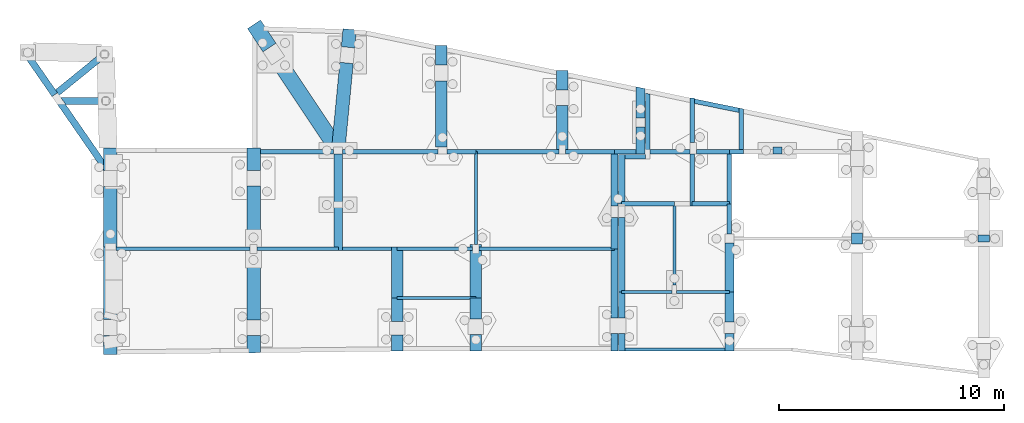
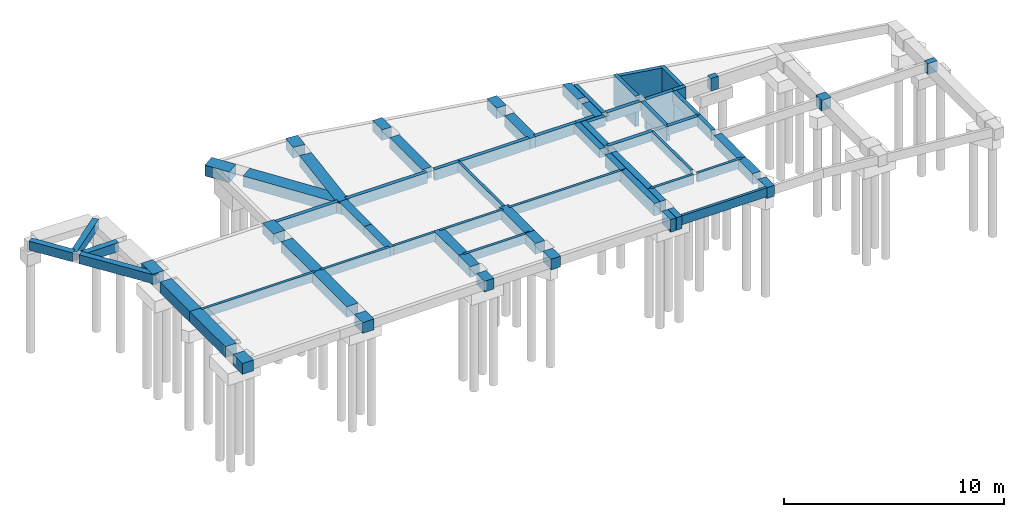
# One storey, part 2 of 5: 71 beams, 3 columns.
"""IFC4 building model written with IfcOpenShell, lengths in centimetres."""

from ifc_helpers import new_model, si_unit, derived_unit, frame, origin, origin_with_axes, origin_2d_with_axis, place, context, project, spatial, rectangle, extrude, clip, halfspace, material, element, save


model = new_model("IFC4")

# Units and contexts
model_context = context("Model", 3, precision=1e-05, world=origin_with_axes(), identifier="Body")
ifc_project = project(units=[si_unit("LENGTHUNIT", "METRE", prefix="CENTI"), si_unit("VOLUMEUNIT", "CUBIC_METRE"), si_unit("AREAUNIT", "SQUARE_METRE"), si_unit("POWERUNIT", "WATT"), si_unit("LUMINOUSFLUXUNIT", "LUMEN"), si_unit("ELECTRICCURRENTUNIT", "AMPERE"), si_unit("PRESSUREUNIT", "PASCAL", prefix="KILO"), si_unit("MASSUNIT", "GRAM", prefix="KILO"), si_unit("PLANEANGLEUNIT", "RADIAN"), derived_unit("VOLUMETRICFLOWRATEUNIT", [(si_unit("LENGTHUNIT", "METRE"), 3), (si_unit("TIMEUNIT", "SECOND"), -1)])], contexts=[model_context])

# Site, building, storey
site_placement = place(None, origin_with_axes())
site = spatial("IfcSite", under=ifc_project, at=site_placement)
building_placement = place(site_placement, origin())
building = spatial("IfcBuilding", under=site, at=building_placement)
storey_placement = place(building_placement, origin_with_axes())
storey = spatial("IfcBuildingStorey", under=building, at=storey_placement, Name="PÁTIO", CompositionType="ELEMENT", Elevation=0.0)

# Columns
ifc_material = material(Name="Concreto")
column_1_placement = place(storey_placement, frame((3361.6, -450.9, 0.0), z_axis=(0.0, 0.0, 1.0), x_axis=(1.0, 0.0, 0.0)))
element("IfcColumn", 1, at=column_1_placement, inside=storey, material=ifc_material, Name="P15", context=model_context, shape_type="SolidModel", body=[
    extrude(rectangle(XDim=30.0, YDim=40.0, at=origin_2d_with_axis()), frame((0.0, 0.0, -70.0), z_axis=(0.0, 0.0, 1.0), x_axis=(0.0, -1.0, 0.0)), (0.0, 0.0, 1.0), 70.0),
])
column_2_placement = place(storey_placement, frame((3716.6, -843.1, 0.0), z_axis=(0.0, 0.0, 1.0), x_axis=(1.0, 0.0, 0.0)))
element("IfcColumn", 2, at=column_2_placement, inside=storey, material=ifc_material, Name="P25", context=model_context, shape_type="SolidModel", body=[
    extrude(rectangle(XDim=50.0, YDim=50.0, at=origin_2d_with_axis()), frame((0.0, 0.0, -60.0), z_axis=(0.0, 0.0, 1.0), x_axis=(0.0, -1.0, 0.0)), (0.0, 0.0, 1.0), 60.0),
])
column_3_placement = place(storey_placement, frame((4280.6, -843.1, 0.0), z_axis=(0.0, 0.0, 1.0), x_axis=(1.0, 0.0, 0.0)))
element("IfcColumn", 3, at=column_3_placement, inside=storey, material=ifc_material, Name="P26", context=model_context, shape_type="SolidModel", body=[
    extrude(rectangle(XDim=30.0, YDim=50.0, at=origin_2d_with_axis()), frame((0.0, 0.0, -60.0), z_axis=(0.0, 0.0, 1.0), x_axis=(0.0, -1.0, 0.0)), (0.0, 0.0, 1.0), 60.0),
])

# Beams
beam_1_placement = place(storey_placement, frame((264.50829820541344, -229.98, 0.0), z_axis=(0.0, 0.0, 1.0), x_axis=(1.0, 0.0, 0.0)))
element("IfcBeam", 4, at=beam_1_placement, inside=storey, material=ifc_material, Name="V.MURO1", context=model_context, shape_type="Clipping", body=[
    clip(extrude(rectangle(XDim=30.0, YDim=50.0, at=origin_2d_with_axis()), frame((-92.7217017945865, 0.0, -25.0), z_axis=(1.0, 0.0, 0.0), x_axis=(0.0, -1.0, 0.0)), (0.0, 0.0, 1.0), 185.44340358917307), halfspace(frame((-92.7217017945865, 15.0, 0.0), z_axis=(0.822031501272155, 0.5694420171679, 0.0), x_axis=(0.0, 0.0, -0.5694420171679)), True)),
])
beam_2_placement = place(storey_placement, frame((253.30542142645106, -114.25227937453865, 0.0), z_axis=(0.0, 0.0, 1.0), x_axis=(1.0, 0.0, 0.0)))
element("IfcBeam", 5, at=beam_2_placement, inside=storey, material=ifc_material, Name="V.MURO2", context=model_context, shape_type="SolidModel", body=[
    extrude(rectangle(XDim=30.0, YDim=50.0, at=origin_2d_with_axis()), frame((-108.51542142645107, -88.09772062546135, -25.0), z_axis=(0.776362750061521, 0.63028634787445, 0.0), x_axis=(0.63028634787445, -0.776362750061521, 0.0)), (0.0, 0.0, 1.0), 279.5482431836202),
])
beam_3_placement = place(storey_placement, frame((274.3735820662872, -389.4108619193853, 0.0), z_axis=(0.0, 0.0, 1.0), x_axis=(1.0, 0.0, 0.0)))
element("IfcBeam", 6, at=beam_3_placement, inside=storey, material=ifc_material, Name="V.MURO3", context=model_context, shape_type="SolidModel", body=[
    extrude(rectangle(XDim=30.0, YDim=50.0, at=origin_2d_with_axis()), frame((110.44358206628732, -159.43086191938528, -25.0), z_axis=(-0.569448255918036, 0.822027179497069, 0.0), x_axis=(0.822027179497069, 0.569448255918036, 0.0)), (0.0, 0.0, 1.0), 387.89681386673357),
])
beam_4_placement = place(storey_placement, frame((82.1365584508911, -111.90422857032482, 0.0), z_axis=(0.0, 0.0, 1.0), x_axis=(1.0, 0.0, 0.0)))
element("IfcBeam", 7, at=beam_4_placement, inside=storey, material=ifc_material, Name="V.MURO3", context=model_context, shape_type="SolidModel", body=[
    extrude(rectangle(XDim=30.0, YDim=50.0, at=origin_2d_with_axis()), frame((62.65346172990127, -90.44580056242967, -25.0), z_axis=(-0.56943813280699, 0.822034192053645, 0.0), x_axis=(0.822034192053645, 0.56943813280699, 0.0)), (0.0, 0.0, 1.0), 220.05362170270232),
])
beam_5_placement = place(storey_placement, frame((2528.05, -455.9, 0.0), z_axis=(0.0, 0.0, 1.0), x_axis=(1.0, 0.0, 0.0)))
element("IfcBeam", 8, at=beam_5_placement, inside=storey, material=ifc_material, Name="V1", context=model_context, shape_type="SolidModel", body=[
    extrude(rectangle(XDim=20.0, YDim=60.0, at=origin_2d_with_axis()), frame((-108.55, 0.0, -30.0), z_axis=(1.0, 0.0, 0.0), x_axis=(0.0, 1.0, 0.0)), (0.0, 0.0, 1.0), 217.1),
])
beam_6_placement = place(storey_placement, frame((1222.85, -455.9, 0.0), z_axis=(0.0, 0.0, 1.0), x_axis=(1.0, 0.0, 0.0)))
element("IfcBeam", 9, at=beam_6_placement, inside=storey, material=ifc_material, Name="V1", context=model_context, shape_type="SolidModel", body=[
    extrude(rectangle(XDim=20.0, YDim=60.0, at=origin_2d_with_axis()), frame((-163.15, 0.0, -30.0), z_axis=(1.0, 0.0, 0.0), x_axis=(0.0, 1.0, 0.0)), (0.0, 0.0, 1.0), 326.3),
])
beam_7_placement = place(storey_placement, frame((2684.8, -455.9, 0.0), z_axis=(0.0, 0.0, 1.0), x_axis=(1.0, 0.0, 0.0)))
element("IfcBeam", 10, at=beam_7_placement, inside=storey, material=ifc_material, Name="V1", context=model_context, shape_type="SolidModel", body=[
    extrude(rectangle(XDim=20.0, YDim=60.0, at=origin_2d_with_axis()), frame((-48.2, 0.0, -30.0), z_axis=(1.0, 0.0, 0.0), x_axis=(0.0, 1.0, 0.0)), (0.0, 0.0, 1.0), 96.4),
])
beam_8_placement = place(storey_placement, frame((2204.55, -455.9, 0.0), z_axis=(0.0, 0.0, 1.0), x_axis=(1.0, 0.0, 0.0)))
element("IfcBeam", 11, at=beam_8_placement, inside=storey, material=ifc_material, Name="V1", context=model_context, shape_type="SolidModel", body=[
    extrude(rectangle(XDim=20.0, YDim=60.0, at=origin_2d_with_axis()), frame((-184.95, 0.0, -30.0), z_axis=(1.0, 0.0, 0.0), x_axis=(0.0, 1.0, 0.0)), (0.0, 0.0, 1.0), 369.9),
])
beam_9_placement = place(storey_placement, frame((1955.3, -455.9, 0.0), z_axis=(0.0, 0.0, 1.0), x_axis=(1.0, 0.0, 0.0)))
element("IfcBeam", 12, at=beam_9_placement, inside=storey, material=ifc_material, Name="V1", context=model_context, shape_type="SolidModel", body=[
    extrude(rectangle(XDim=20.0, YDim=60.0, at=origin_2d_with_axis()), frame((-64.3, 0.0, -30.0), z_axis=(1.0, 0.0, 0.0), x_axis=(0.0, 1.0, 0.0)), (0.0, 0.0, 1.0), 128.6),
])
beam_10_placement = place(storey_placement, frame((1638.5, -455.9, 0.0), z_axis=(0.0, 0.0, 1.0), x_axis=(1.0, 0.0, 0.0)))
element("IfcBeam", 13, at=beam_10_placement, inside=storey, material=ifc_material, Name="V1", context=model_context, shape_type="SolidModel", body=[
    extrude(rectangle(XDim=20.0, YDim=60.0, at=origin_2d_with_axis()), frame((-212.5, 0.0, -30.0), z_axis=(1.0, 0.0, 0.0), x_axis=(0.0, 1.0, 0.0)), (0.0, 0.0, 1.0), 425.0),
])
beam_11_placement = place(storey_placement, frame((2908.6, -1337.1, 0.0), z_axis=(0.0, 0.0, 1.0), x_axis=(1.0, 0.0, 0.0)))
element("IfcBeam", 14, at=beam_11_placement, inside=storey, material=ifc_material, Name="V10", context=model_context, shape_type="SolidModel", body=[
    extrude(rectangle(XDim=14.0, YDim=50.0, at=origin_2d_with_axis()), frame((-255.0, 0.0, -25.0), z_axis=(1.0, 0.0, 0.0), x_axis=(0.0, 1.0, 0.0)), (0.0, 0.0, 1.0), 510.0),
])
beam_12_placement = place(storey_placement, frame((392.75, -489.55, 0.0), z_axis=(0.0, 0.0, 1.0), x_axis=(1.0, 0.0, 0.0)))
element("IfcBeam", 15, at=beam_12_placement, inside=storey, material=ifc_material, Name="V11", context=model_context, shape_type="SolidModel", body=[
    extrude(rectangle(XDim=60.0, YDim=60.0, at=origin_2d_with_axis()), frame((0.0, -50.75, -30.0), z_axis=(0.0, 1.0, 0.0), x_axis=(1.0, 0.0, 0.0)), (0.0, 0.0, 1.0), 101.5),
])
beam_13_placement = place(storey_placement, frame((392.75, -1041.86, 0.0), z_axis=(0.0, 0.0, 1.0), x_axis=(1.0, 0.0, 0.0)))
element("IfcBeam", 16, at=beam_13_placement, inside=storey, material=ifc_material, Name="V11", context=model_context, shape_type="SolidModel", body=[
    extrude(rectangle(XDim=60.0, YDim=60.0, at=origin_2d_with_axis()), frame((0.0, -161.96, -30.0), z_axis=(0.0, 1.0, 0.0), x_axis=(1.0, 0.0, 0.0)), (0.0, 0.0, 1.0), 323.92),
])
beam_14_placement = place(storey_placement, frame((392.75, -1316.01, 0.0), z_axis=(0.0, 0.0, 1.0), x_axis=(1.0, 0.0, 0.0)))
element("IfcBeam", 17, at=beam_14_placement, inside=storey, material=ifc_material, Name="V11", context=model_context, shape_type="SolidModel", body=[
    extrude(rectangle(XDim=60.0, YDim=60.0, at=origin_2d_with_axis()), frame((0.0, -42.19, -30.0), z_axis=(0.0, 1.0, 0.0), x_axis=(1.0, 0.0, 0.0)), (0.0, 0.0, 1.0), 84.38),
])
beam_15_placement = place(storey_placement, frame((392.75, -745.1, 0.0), z_axis=(0.0, 0.0, 1.0), x_axis=(1.0, 0.0, 0.0)))
element("IfcBeam", 18, at=beam_15_placement, inside=storey, material=ifc_material, Name="V11", context=model_context, shape_type="SolidModel", body=[
    extrude(rectangle(XDim=60.0, YDim=60.0, at=origin_2d_with_axis()), frame((0.0, -134.8, -30.0), z_axis=(0.0, 1.0, 0.0), x_axis=(1.0, 0.0, 0.0)), (0.0, 0.0, 1.0), 269.6),
])
beam_16_placement = place(storey_placement, frame((1029.7, -1046.86, 0.0), z_axis=(0.0, 0.0, 1.0), x_axis=(1.0, 0.0, 0.0)))
element("IfcBeam", 19, at=beam_16_placement, inside=storey, material=ifc_material, Name="V12", context=model_context, shape_type="SolidModel", body=[
    extrude(rectangle(XDim=60.0, YDim=60.0, at=origin_2d_with_axis()), frame((0.0, -158.46, -30.0), z_axis=(0.0, 1.0, 0.0), x_axis=(1.0, 0.0, 0.0)), (0.0, 0.0, 1.0), 316.92),
])
beam_17_placement = place(storey_placement, frame((1029.7, -488.8, 0.0), z_axis=(0.0, 0.0, 1.0), x_axis=(1.0, 0.0, 0.0)))
element("IfcBeam", 20, at=beam_17_placement, inside=storey, material=ifc_material, Name="V12", context=model_context, shape_type="SolidModel", body=[
    extrude(rectangle(XDim=60.0, YDim=60.0, at=origin_2d_with_axis()), frame((0.0, -50.0, -30.0), z_axis=(0.0, 1.0, 0.0), x_axis=(1.0, 0.0, 0.0)), (0.0, 0.0, 1.0), 100.0),
])
beam_18_placement = place(storey_placement, frame((1029.7, -1313.521036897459, 0.0), z_axis=(0.0, 0.0, 1.0), x_axis=(1.0, 0.0, 0.0)))
element("IfcBeam", 21, at=beam_18_placement, inside=storey, material=ifc_material, Name="V12", context=model_context, shape_type="Clipping", body=[
    clip(extrude(rectangle(XDim=60.0, YDim=60.0, at=origin_2d_with_axis()), frame((0.0, -38.20103689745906, -30.0), z_axis=(0.0, 1.0, 0.0), x_axis=(1.0, 0.0, 0.0)), (0.0, 0.0, 1.0), 76.40207379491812), halfspace(frame((-30.0, -38.20103689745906, 0.0), z_axis=(-0.011144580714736, 1.0, 0.0), x_axis=(0.0, 0.0, -0.011144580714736)), True)),
])
beam_19_placement = place(storey_placement, frame((1029.7, -748.6, 0.0), z_axis=(0.0, 0.0, 1.0), x_axis=(1.0, 0.0, 0.0)))
element("IfcBeam", 22, at=beam_19_placement, inside=storey, material=ifc_material, Name="V12", context=model_context, shape_type="SolidModel", body=[
    extrude(rectangle(XDim=60.0, YDim=60.0, at=origin_2d_with_axis()), frame((0.0, -139.8, -30.0), z_axis=(0.0, 1.0, 0.0), x_axis=(1.0, 0.0, 0.0)), (0.0, 0.0, 1.0), 279.6),
])
beam_20_placement = place(storey_placement, frame((1406.96, -794.15, 0.0), z_axis=(0.0, 0.0, 1.0), x_axis=(1.0, 0.0, 0.0)))
element("IfcBeam", 23, at=beam_20_placement, inside=storey, material=ifc_material, Name="V13", context=model_context, shape_type="SolidModel", body=[
    extrude(rectangle(XDim=40.0, YDim=50.0, at=origin_2d_with_axis()), frame((0.0, -101.25, -25.0), z_axis=(0.0, 1.0, 0.0), x_axis=(1.0, 0.0, 0.0)), (0.0, 0.0, 1.0), 202.5),
])
beam_21_placement = place(storey_placement, frame((1406.96, -579.4, 0.0), z_axis=(0.0, 0.0, 1.0), x_axis=(1.0, 0.0, 0.0)))
element("IfcBeam", 24, at=beam_21_placement, inside=storey, material=ifc_material, Name="V13", context=model_context, shape_type="SolidModel", body=[
    extrude(rectangle(XDim=40.0, YDim=50.0, at=origin_2d_with_axis()), frame((0.0, -113.5, -25.0), z_axis=(0.0, 1.0, 0.0), x_axis=(1.0, 0.0, 0.0)), (0.0, 0.0, 1.0), 227.0),
])
beam_22_placement = place(storey_placement, frame((1669.6, -1308.145, 0.0), z_axis=(0.0, 0.0, 1.0), x_axis=(1.0, 0.0, 0.0)))
element("IfcBeam", 25, at=beam_22_placement, inside=storey, material=ifc_material, Name="V14", context=model_context, shape_type="SolidModel", body=[
    extrude(rectangle(XDim=50.0, YDim=60.0, at=origin_2d_with_axis()), frame((0.0, -35.955, -30.0), z_axis=(0.0, 1.0, 0.0), x_axis=(1.0, 0.0, 0.0)), (0.0, 0.0, 1.0), 71.91),
])
beam_23_placement = place(storey_placement, frame((1669.6, -1159.545, 0.0), z_axis=(0.0, 0.0, 1.0), x_axis=(1.0, 0.0, 0.0)))
element("IfcBeam", 26, at=beam_23_placement, inside=storey, material=ifc_material, Name="V14", context=model_context, shape_type="SolidModel", body=[
    extrude(rectangle(XDim=50.0, YDim=60.0, at=origin_2d_with_axis()), frame((0.0, -52.645, -30.0), z_axis=(0.0, 1.0, 0.0), x_axis=(1.0, 0.0, 0.0)), (0.0, 0.0, 1.0), 105.29),
])
beam_24_placement = place(storey_placement, frame((1669.6, -994.15, 0.0), z_axis=(0.0, 0.0, 1.0), x_axis=(1.0, 0.0, 0.0)))
element("IfcBeam", 27, at=beam_24_placement, inside=storey, material=ifc_material, Name="V14", context=model_context, shape_type="SolidModel", body=[
    extrude(rectangle(XDim=50.0, YDim=60.0, at=origin_2d_with_axis()), frame((0.0, -112.75, -30.0), z_axis=(0.0, 1.0, 0.0), x_axis=(1.0, 0.0, 0.0)), (0.0, 0.0, 1.0), 225.5),
])
beam_25_placement = place(storey_placement, frame((1866.0, -27.35925409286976, 0.0), z_axis=(0.0, 0.0, 1.0), x_axis=(1.0, 0.0, 0.0)))
element("IfcBeam", 28, at=beam_25_placement, inside=storey, material=ifc_material, Name="V15", context=model_context, shape_type="SolidModel", body=[
    extrude(rectangle(XDim=50.0, YDim=60.0, at=origin_2d_with_axis()), frame((0.0, -43.06074590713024, -30.0), z_axis=(0.0, 1.0, 0.0), x_axis=(1.0, 0.0, 0.0)), (0.0, 0.0, 1.0), 86.12149181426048),
])
beam_26_placement = place(storey_placement, frame((1866.0, -288.16, 0.0), z_axis=(0.0, 0.0, 1.0), x_axis=(1.0, 0.0, 0.0)))
element("IfcBeam", 29, at=beam_26_placement, inside=storey, material=ifc_material, Name="V15", context=model_context, shape_type="SolidModel", body=[
    extrude(rectangle(XDim=50.0, YDim=60.0, at=origin_2d_with_axis()), frame((0.0, -147.74, -30.0), z_axis=(0.0, 1.0, 0.0), x_axis=(1.0, 0.0, 0.0)), (0.0, 0.0, 1.0), 295.48),
])
beam_27_placement = place(storey_placement, frame((2019.6, -987.65, 0.0), z_axis=(0.0, 0.0, 1.0), x_axis=(1.0, 0.0, 0.0)))
element("IfcBeam", 30, at=beam_27_placement, inside=storey, material=ifc_material, Name="V16", context=model_context, shape_type="SolidModel", body=[
    extrude(rectangle(XDim=50.0, YDim=60.0, at=origin_2d_with_axis()), frame((0.0, -119.25, -30.0), z_axis=(0.0, 1.0, 0.0), x_axis=(1.0, 0.0, 0.0)), (0.0, 0.0, 1.0), 238.5),
])
beam_28_placement = place(storey_placement, frame((2019.6, -1153.79, 0.0), z_axis=(0.0, 0.0, 1.0), x_axis=(1.0, 0.0, 0.0)))
element("IfcBeam", 31, at=beam_28_placement, inside=storey, material=ifc_material, Name="V16", context=model_context, shape_type="SolidModel", body=[
    extrude(rectangle(XDim=50.0, YDim=60.0, at=origin_2d_with_axis()), frame((0.0, -46.89, -30.0), z_axis=(0.0, 1.0, 0.0), x_axis=(1.0, 0.0, 0.0)), (0.0, 0.0, 1.0), 93.78),
])
beam_29_placement = place(storey_placement, frame((2019.6, -1307.39, 0.0), z_axis=(0.0, 0.0, 1.0), x_axis=(1.0, 0.0, 0.0)))
element("IfcBeam", 32, at=beam_29_placement, inside=storey, material=ifc_material, Name="V16", context=model_context, shape_type="SolidModel", body=[
    extrude(rectangle(XDim=50.0, YDim=60.0, at=origin_2d_with_axis()), frame((0.0, -36.71, -30.0), z_axis=(0.0, 1.0, 0.0), x_axis=(1.0, 0.0, 0.0)), (0.0, 0.0, 1.0), 73.42),
])
beam_30_placement = place(storey_placement, frame((2019.6, -662.15, 0.0), z_axis=(0.0, 0.0, 1.0), x_axis=(1.0, 0.0, 0.0)))
element("IfcBeam", 33, at=beam_30_placement, inside=storey, material=ifc_material, Name="V17", context=model_context, shape_type="SolidModel", body=[
    extrude(rectangle(XDim=14.0, YDim=50.0, at=origin_2d_with_axis()), frame((0.0, -206.25, -25.0), z_axis=(0.0, 1.0, 0.0), x_axis=(1.0, 0.0, 0.0)), (0.0, 0.0, 1.0), 412.5),
])
beam_31_placement = place(storey_placement, frame((2404.5, -358.525, 0.0), z_axis=(0.0, 0.0, 1.0), x_axis=(1.0, 0.0, 0.0)))
element("IfcBeam", 34, at=beam_31_placement, inside=storey, material=ifc_material, Name="V18", context=model_context, shape_type="SolidModel", body=[
    extrude(rectangle(XDim=50.0, YDim=60.0, at=origin_2d_with_axis()), frame((0.0, -107.375, -30.0), z_axis=(0.0, 1.0, 0.0), x_axis=(1.0, 0.0, 0.0)), (0.0, 0.0, 1.0), 214.75),
])
beam_32_placement = place(storey_placement, frame((2404.5, -138.07003948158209, 0.0), z_axis=(0.0, 0.0, 1.0), x_axis=(1.0, 0.0, 0.0)))
element("IfcBeam", 35, at=beam_32_placement, inside=storey, material=ifc_material, Name="V18", context=model_context, shape_type="SolidModel", body=[
    extrude(rectangle(XDim=50.0, YDim=60.0, at=origin_2d_with_axis()), frame((0.0, -43.07996051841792, -30.0), z_axis=(0.0, 1.0, 0.0), x_axis=(1.0, 0.0, 0.0)), (0.0, 0.0, 1.0), 86.15992103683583),
])
beam_33_placement = place(storey_placement, frame((2636.6, -1042.28, 0.0), z_axis=(0.0, 0.0, 1.0), x_axis=(1.0, 0.0, 0.0)))
element("IfcBeam", 36, at=beam_33_placement, inside=storey, material=ifc_material, Name="V19", context=model_context, shape_type="SolidModel", body=[
    extrude(rectangle(XDim=30.0, YDim=70.0, at=origin_2d_with_axis()), frame((0.0, -153.88, -35.0), z_axis=(0.0, 1.0, 0.0), x_axis=(1.0, 0.0, 0.0)), (0.0, 0.0, 1.0), 307.76),
])
beam_34_placement = place(storey_placement, frame((2636.6, -577.0, 0.0), z_axis=(0.0, 0.0, 1.0), x_axis=(1.0, 0.0, 0.0)))
element("IfcBeam", 37, at=beam_34_placement, inside=storey, material=ifc_material, Name="V19", context=model_context, shape_type="SolidModel", body=[
    extrude(rectangle(XDim=30.0, YDim=50.0, at=origin_2d_with_axis()), frame((0.0, -121.1, -25.0), z_axis=(0.0, 1.0, 0.0), x_axis=(1.0, 0.0, 0.0)), (0.0, 0.0, 1.0), 242.2),
])
beam_35_placement = place(storey_placement, frame((2636.6, -1305.13, 0.0), z_axis=(0.0, 0.0, 1.0), x_axis=(1.0, 0.0, 0.0)))
element("IfcBeam", 38, at=beam_35_placement, inside=storey, material=ifc_material, Name="V19", context=model_context, shape_type="SolidModel", body=[
    extrude(rectangle(XDim=30.0, YDim=70.0, at=origin_2d_with_axis()), frame((0.0, -38.97, -35.0), z_axis=(0.0, 1.0, 0.0), x_axis=(1.0, 0.0, 0.0)), (0.0, 0.0, 1.0), 77.94),
])
beam_36_placement = place(storey_placement, frame((2636.6, -818.25, 0.0), z_axis=(0.0, 0.0, 1.0), x_axis=(1.0, 0.0, 0.0)))
element("IfcBeam", 39, at=beam_36_placement, inside=storey, material=ifc_material, Name="V19", context=model_context, shape_type="SolidModel", body=[
    extrude(rectangle(XDim=30.0, YDim=70.0, at=origin_2d_with_axis()), frame((0.0, -70.15, -35.0), z_axis=(0.0, 1.0, 0.0), x_axis=(1.0, 0.0, 0.0)), (0.0, 0.0, 1.0), 140.3),
])
beam_37_placement = place(storey_placement, frame((2729.3, -477.9, 0.0), z_axis=(0.0, 0.0, 1.0), x_axis=(1.0, 0.0, 0.0)))
element("IfcBeam", 40, at=beam_37_placement, inside=storey, material=ifc_material, Name="V2", context=model_context, shape_type="SolidModel", body=[
    extrude(rectangle(XDim=20.0, YDim=50.0, at=origin_2d_with_axis()), frame((-45.7, 0.0, -25.0), z_axis=(1.0, 0.0, 0.0), x_axis=(0.0, 1.0, 0.0)), (0.0, 0.0, 1.0), 91.4),
])
beam_38_placement = place(storey_placement, frame((2668.6, -578.0, 0.0), z_axis=(0.0, 0.0, 1.0), x_axis=(1.0, 0.0, 0.0)))
element("IfcBeam", 41, at=beam_38_placement, inside=storey, material=ifc_material, Name="V20", context=model_context, shape_type="SolidModel", body=[
    extrude(rectangle(XDim=30.0, YDim=50.0, at=origin_2d_with_axis()), frame((0.0, -110.1, -25.0), z_axis=(0.0, 1.0, 0.0), x_axis=(1.0, 0.0, 0.0)), (0.0, 0.0, 1.0), 220.2),
])
beam_39_placement = place(storey_placement, frame((2668.6, -1305.13, 0.0), z_axis=(0.0, 0.0, 1.0), x_axis=(1.0, 0.0, 0.0)))
element("IfcBeam", 42, at=beam_39_placement, inside=storey, material=ifc_material, Name="V20", context=model_context, shape_type="SolidModel", body=[
    extrude(rectangle(XDim=30.0, YDim=70.0, at=origin_2d_with_axis()), frame((0.0, -38.97, -35.0), z_axis=(0.0, 1.0, 0.0), x_axis=(1.0, 0.0, 0.0)), (0.0, 0.0, 1.0), 77.94),
])
beam_40_placement = place(storey_placement, frame((2668.6, -1138.13, 0.0), z_axis=(0.0, 0.0, 1.0), x_axis=(1.0, 0.0, 0.0)))
element("IfcBeam", 43, at=beam_40_placement, inside=storey, material=ifc_material, Name="V20", context=model_context, shape_type="SolidModel", body=[
    extrude(rectangle(XDim=30.0, YDim=70.0, at=origin_2d_with_axis()), frame((0.0, -58.03, -35.0), z_axis=(0.0, 1.0, 0.0), x_axis=(1.0, 0.0, 0.0)), (0.0, 0.0, 1.0), 116.06),
])
beam_41_placement = place(storey_placement, frame((2668.6, -914.1, 0.0), z_axis=(0.0, 0.0, 1.0), x_axis=(1.0, 0.0, 0.0)))
element("IfcBeam", 44, at=beam_41_placement, inside=storey, material=ifc_material, Name="V20", context=model_context, shape_type="SolidModel", body=[
    extrude(rectangle(XDim=30.0, YDim=70.0, at=origin_2d_with_axis()), frame((0.0, -166.0, -35.0), z_axis=(0.0, 1.0, 0.0), x_axis=(1.0, 0.0, 0.0)), (0.0, 0.0, 1.0), 332.0),
])
beam_42_placement = place(storey_placement, frame((2785.0, -325.802159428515, 0.0), z_axis=(0.0, 0.0, 1.0), x_axis=(1.0, 0.0, 0.0)))
element("IfcBeam", 45, at=beam_42_placement, inside=storey, material=ifc_material, Name="V21", context=model_context, shape_type="Clipping", body=[
    clip(extrude(rectangle(XDim=20.0, YDim=50.0, at=origin_2d_with_axis()), frame((0.0, -130.097840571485, -25.0), z_axis=(0.0, 1.0, 0.0), x_axis=(1.0, 0.0, 0.0)), (0.0, 0.0, 1.0), 260.1956811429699), halfspace(frame((-10.0, 130.09784057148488, -50.0), z_axis=(-0.205965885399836, -0.978559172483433, 0.0), x_axis=(0.0, 0.0, -0.205965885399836)), True)),
])
beam_43_placement = place(storey_placement, frame((2753.0, -236.4418929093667, 0.0), z_axis=(0.0, 0.0, 1.0), x_axis=(1.0, 0.0, 0.0)))
element("IfcBeam", 46, at=beam_43_placement, inside=storey, material=ifc_material, Name="V22", context=model_context, shape_type="Clipping", body=[
    clip(extrude(rectangle(XDim=40.0, YDim=60.0, at=origin_2d_with_axis()), frame((0.0, -69.24810709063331, -30.0), z_axis=(0.0, 1.0, 0.0), x_axis=(1.0, 0.0, 0.0)), (0.0, 0.0, 1.0), 138.49621418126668), halfspace(frame((-20.0, 69.24810709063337, -60.0), z_axis=(-0.203308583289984, -0.979114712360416, 0.0), x_axis=(0.0, 0.0, -0.203308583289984)), True)),
])
beam_44_placement = place(storey_placement, frame((2753.0, -405.795, 0.0), z_axis=(0.0, 0.0, 1.0), x_axis=(1.0, 0.0, 0.0)))
element("IfcBeam", 47, at=beam_44_placement, inside=storey, material=ifc_material, Name="V22", context=model_context, shape_type="SolidModel", body=[
    extrude(rectangle(XDim=40.0, YDim=60.0, at=origin_2d_with_axis()), frame((0.0, -60.105, -30.0), z_axis=(0.0, 1.0, 0.0), x_axis=(1.0, 0.0, 0.0)), (0.0, 0.0, 1.0), 120.21),
])
beam_45_placement = place(storey_placement, frame((2903.6, -869.1, 0.0), z_axis=(0.0, 0.0, 1.0), x_axis=(1.0, 0.0, 0.0)))
element("IfcBeam", 48, at=beam_45_placement, inside=storey, material=ifc_material, Name="V23", context=model_context, shape_type="SolidModel", body=[
    extrude(rectangle(XDim=14.0, YDim=50.0, at=origin_2d_with_axis()), frame((0.0, -181.0, -25.0), z_axis=(0.0, 1.0, 0.0), x_axis=(1.0, 0.0, 0.0)), (0.0, 0.0, 1.0), 362.0),
])
beam_46_placement = place(storey_placement, frame((2983.0, -316.45, 0.0), z_axis=(0.0, 0.0, 1.0), x_axis=(1.0, 0.0, 0.0)))
element("IfcBeam", 49, at=beam_46_placement, inside=storey, material=ifc_material, Name="V24", context=model_context, shape_type="SolidModel", body=[
    extrude(rectangle(XDim=20.0, YDim=170.0, at=origin_2d_with_axis()), frame((0.0, -99.45, -85.0), z_axis=(0.0, 1.0, 0.0), x_axis=(1.0, 0.0, 0.0)), (0.0, 0.0, 1.0), 198.9),
])
beam_47_placement = place(storey_placement, frame((2983.0, -582.0, 0.0), z_axis=(0.0, 0.0, 1.0), x_axis=(1.0, 0.0, 0.0)))
element("IfcBeam", 50, at=beam_47_placement, inside=storey, material=ifc_material, Name="V24", context=model_context, shape_type="SolidModel", body=[
    extrude(rectangle(XDim=20.0, YDim=80.0, at=origin_2d_with_axis()), frame((0.0, -116.1, -40.0), z_axis=(0.0, 1.0, 0.0), x_axis=(1.0, 0.0, 0.0)), (0.0, 0.0, 1.0), 232.2),
])
beam_48_placement = place(storey_placement, frame((3148.6, -1147.735, 0.0), z_axis=(0.0, 0.0, 1.0), x_axis=(1.0, 0.0, 0.0)))
element("IfcBeam", 51, at=beam_48_placement, inside=storey, material=ifc_material, Name="V25", context=model_context, shape_type="SolidModel", body=[
    extrude(rectangle(XDim=40.0, YDim=60.0, at=origin_2d_with_axis()), frame((0.0, -67.635, -30.0), z_axis=(0.0, 1.0, 0.0), x_axis=(1.0, 0.0, 0.0)), (0.0, 0.0, 1.0), 135.27),
])
beam_49_placement = place(storey_placement, frame((3148.6, -971.85, 0.0), z_axis=(0.0, 0.0, 1.0), x_axis=(1.0, 0.0, 0.0)))
element("IfcBeam", 52, at=beam_49_placement, inside=storey, material=ifc_material, Name="V25", context=model_context, shape_type="SolidModel", body=[
    extrude(rectangle(XDim=40.0, YDim=60.0, at=origin_2d_with_axis()), frame((0.0, -108.25, -30.0), z_axis=(0.0, 1.0, 0.0), x_axis=(1.0, 0.0, 0.0)), (0.0, 0.0, 1.0), 216.5),
])
beam_50_placement = place(storey_placement, frame((3148.6, -1304.735, 0.0), z_axis=(0.0, 0.0, 1.0), x_axis=(1.0, 0.0, 0.0)))
element("IfcBeam", 53, at=beam_50_placement, inside=storey, material=ifc_material, Name="V25", context=model_context, shape_type="SolidModel", body=[
    extrude(rectangle(XDim=40.0, YDim=60.0, at=origin_2d_with_axis()), frame((0.0, -39.365, -30.0), z_axis=(0.0, 1.0, 0.0), x_axis=(1.0, 0.0, 0.0)), (0.0, 0.0, 1.0), 78.73),
])
beam_51_placement = place(storey_placement, frame((3148.6, -572.0, 0.0), z_axis=(0.0, 0.0, 1.0), x_axis=(1.0, 0.0, 0.0)))
element("IfcBeam", 54, at=beam_51_placement, inside=storey, material=ifc_material, Name="V26", context=model_context, shape_type="SolidModel", body=[
    extrude(rectangle(XDim=20.0, YDim=60.0, at=origin_2d_with_axis()), frame((0.0, -116.1, -30.0), z_axis=(0.0, 1.0, 0.0), x_axis=(1.0, 0.0, 0.0)), (0.0, 0.0, 1.0), 232.2),
])
beam_52_placement = place(storey_placement, frame((3148.6, -755.85, 0.0), z_axis=(0.0, 0.0, 1.0), x_axis=(1.0, 0.0, 0.0)))
element("IfcBeam", 55, at=beam_52_placement, inside=storey, material=ifc_material, Name="V26", context=model_context, shape_type="SolidModel", body=[
    extrude(rectangle(XDim=20.0, YDim=60.0, at=origin_2d_with_axis()), frame((0.0, -67.75, -30.0), z_axis=(0.0, 1.0, 0.0), x_axis=(1.0, 0.0, 0.0)), (0.0, 0.0, 1.0), 135.5),
])
beam_53_placement = place(storey_placement, frame((3201.4, -353.8283808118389, 0.0), z_axis=(0.0, 0.0, 1.0), x_axis=(1.0, 0.0, 0.0)))
element("IfcBeam", 56, at=beam_53_placement, inside=storey, material=ifc_material, Name="V27", context=model_context, shape_type="Clipping", body=[
    clip(extrude(rectangle(XDim=20.0, YDim=170.0, at=origin_2d_with_axis()), frame((0.0, -92.07161918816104, -85.0), z_axis=(0.0, 1.0, 0.0), x_axis=(1.0, 0.0, 0.0)), (0.0, 0.0, 1.0), 184.14323837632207), halfspace(frame((-10.0, 92.07161918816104, -170.0), z_axis=(-0.200453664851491, -0.979703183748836, 0.0), x_axis=(0.0, 0.0, -0.200453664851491)), True)),
])
beam_54_placement = place(storey_placement, frame((3075.8, -455.9, 0.0), z_axis=(0.0, 0.0, 1.0), x_axis=(1.0, 0.0, 0.0)))
element("IfcBeam", 57, at=beam_54_placement, inside=storey, material=ifc_material, Name="V3", context=model_context, shape_type="SolidModel", body=[
    extrude(rectangle(XDim=20.0, YDim=170.0, at=origin_2d_with_axis()), frame((-72.8, 0.0, -85.0), z_axis=(1.0, 0.0, 0.0), x_axis=(0.0, 1.0, 0.0)), (0.0, 0.0, 1.0), 145.6),
])
beam_55_placement = place(storey_placement, frame((3180.0, -455.9, 0.0), z_axis=(0.0, 0.0, 1.0), x_axis=(1.0, 0.0, 0.0)))
element("IfcBeam", 58, at=beam_55_placement, inside=storey, material=ifc_material, Name="V3", context=model_context, shape_type="SolidModel", body=[
    extrude(rectangle(XDim=20.0, YDim=170.0, at=origin_2d_with_axis()), frame((-31.4, 0.0, -85.0), z_axis=(1.0, 0.0, 0.0), x_axis=(0.0, 1.0, 0.0)), (0.0, 0.0, 1.0), 62.8),
])
beam_56_placement = place(storey_placement, frame((2884.0, -455.9, 0.0), z_axis=(0.0, 0.0, 1.0), x_axis=(1.0, 0.0, 0.0)))
element("IfcBeam", 59, at=beam_56_placement, inside=storey, material=ifc_material, Name="V3", context=model_context, shape_type="SolidModel", body=[
    extrude(rectangle(XDim=20.0, YDim=50.0, at=origin_2d_with_axis()), frame((-89.0, 0.0, -25.0), z_axis=(1.0, 0.0, 0.0), x_axis=(0.0, 1.0, 0.0)), (0.0, 0.0, 1.0), 178.0),
])
beam_57_placement = place(storey_placement, frame((1279.239581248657, -260.6842891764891, 0.0), z_axis=(0.0, 0.0, 1.0), x_axis=(1.0, 0.0, 0.0)))
element("IfcBeam", 60, at=beam_57_placement, inside=storey, material=ifc_material, Name="V30", context=model_context, shape_type="SolidModel", body=[
    extrude(rectangle(XDim=70.0, YDim=60.0, at=origin_2d_with_axis()), frame((139.82958124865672, -209.834289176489, -30.0), z_axis=(-0.55453560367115, 0.83216, 0.0), x_axis=(0.83216, 0.55453560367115, 0.0)), (0.0, 0.0, 1.0), 504.31236632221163),
])
beam_58_placement = place(storey_placement, frame((1066.1381321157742, 59.086731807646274, 0.0), z_axis=(0.0, 0.0, 1.0), x_axis=(1.0, 0.0, 0.0)))
element("IfcBeam", 61, at=beam_58_placement, inside=storey, material=ifc_material, Name="V30", context=model_context, shape_type="SolidModel", body=[
    extrude(rectangle(XDim=70.0, YDim=60.0, at=origin_2d_with_axis()), frame((34.45186788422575, -51.68673180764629, -30.0), z_axis=(-0.554633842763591, 0.832094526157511, 0.0), x_axis=(0.832094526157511, 0.554633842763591, 0.0)), (0.0, 0.0, 1.0), 124.23283697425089),
])
beam_59_placement = place(storey_placement, frame((3092.2, -251.6669673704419, 0.0), z_axis=(0.0, 0.0, 1.0), x_axis=(1.0, 0.0, 0.0)))
element("IfcBeam", 62, at=beam_59_placement, inside=storey, material=ifc_material, Name="V31", context=model_context, shape_type="Clipping", body=[
    clip(clip(extrude(rectangle(XDim=20.0, YDim=170.0, at=origin_2d_with_axis()), frame((-101.20453664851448, 20.707108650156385, -85.0), z_axis=(0.979703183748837, -0.200453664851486, 0.0), x_axis=(0.200453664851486, 0.979703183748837, 0.0)), (0.0, 0.0, 1.0), 206.60244516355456), halfspace(frame((-99.2, 30.504140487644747, 0.0), z_axis=(1.0, 0.0, 0.0), x_axis=(0.0, 0.0, -0.200453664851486)), True)), halfspace(frame((99.2, -10.089794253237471, -170.0), z_axis=(-1.0, 0.0, 0.0), x_axis=(0.0, 0.0, 0.200453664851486)), True)),
])
beam_60_placement = place(storey_placement, frame((1424.3241748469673, -264.3676980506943, 0.0), z_axis=(0.0, 0.0, 1.0), x_axis=(1.0, 0.0, 0.0)))
element("IfcBeam", 63, at=beam_60_placement, inside=storey, material=ifc_material, Name="V33", context=model_context, shape_type="SolidModel", body=[
    extrude(rectangle(XDim=60.0, YDim=60.0, at=origin_2d_with_axis()), frame((-19.44582515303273, -203.3376980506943, -30.0), z_axis=(0.095198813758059, 0.995458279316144, 0.0), x_axis=(0.995458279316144, -0.095198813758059, 0.0)), (0.0, 0.0, 1.0), 408.5308290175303),
])
beam_61_placement = place(storey_placement, frame((1454.2551321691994, 48.569303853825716, 0.0), z_axis=(0.0, 0.0, 1.0), x_axis=(1.0, 0.0, 0.0)))
element("IfcBeam", 64, at=beam_61_placement, inside=storey, material=ifc_material, Name="V33", context=model_context, shape_type="SolidModel", body=[
    extrude(rectangle(XDim=60.0, YDim=60.0, at=origin_2d_with_axis()), frame((-3.825132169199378, -39.91930385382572, -30.0), z_axis=(0.095384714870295, 0.99544048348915, 0.0), x_axis=(0.99544048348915, -0.095384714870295, 0.0)), (0.0, 0.0, 1.0), 80.20430054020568),
])
beam_62_placement = place(storey_placement, frame((2786.1, -688.1, 0.0), z_axis=(0.0, 0.0, 1.0), x_axis=(1.0, 0.0, 0.0)))
element("IfcBeam", 65, at=beam_62_placement, inside=storey, material=ifc_material, Name="V4", context=model_context, shape_type="SolidModel", body=[
    extrude(rectangle(XDim=20.0, YDim=50.0, at=origin_2d_with_axis()), frame((-117.5, 0.0, -25.0), z_axis=(1.0, 0.0, 0.0), x_axis=(0.0, 1.0, 0.0)), (0.0, 0.0, 1.0), 235.0),
])
beam_63_placement = place(storey_placement, frame((3065.8, -688.1, 0.0), z_axis=(0.0, 0.0, 1.0), x_axis=(1.0, 0.0, 0.0)))
element("IfcBeam", 66, at=beam_63_placement, inside=storey, material=ifc_material, Name="V4", context=model_context, shape_type="SolidModel", body=[
    extrude(rectangle(XDim=20.0, YDim=50.0, at=origin_2d_with_axis()), frame((-82.8, 0.0, -25.0), z_axis=(1.0, 0.0, 0.0), x_axis=(0.0, 1.0, 0.0)), (0.0, 0.0, 1.0), 165.6),
])
beam_64_placement = place(storey_placement, frame((716.1371716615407, -888.4, 0.0), z_axis=(0.0, 0.0, 1.0), x_axis=(1.0, 0.0, 0.0)))
element("IfcBeam", 67, at=beam_64_placement, inside=storey, material=ifc_material, Name="V5", context=model_context, shape_type="SolidModel", body=[
    extrude(rectangle(XDim=14.0, YDim=50.0, at=origin_2d_with_axis()), frame((-298.3871716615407, 0.0, -25.0), z_axis=(1.0, 0.0, 0.0), x_axis=(0.0, -1.0, 0.0)), (0.0, 0.0, 1.0), 596.7743433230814),
])
beam_65_placement = place(storey_placement, frame((1837.1, -888.4, 0.0), z_axis=(0.0, 0.0, 1.0), x_axis=(1.0, 0.0, 0.0)))
element("IfcBeam", 68, at=beam_65_placement, inside=storey, material=ifc_material, Name="V6", context=model_context, shape_type="SolidModel", body=[
    extrude(rectangle(XDim=14.0, YDim=50.0, at=origin_2d_with_axis()), frame((-167.5, 0.0, -25.0), z_axis=(1.0, 0.0, 0.0), x_axis=(0.0, 1.0, 0.0)), (0.0, 0.0, 1.0), 335.0),
])
beam_66_placement = place(storey_placement, frame((1535.78, -888.4, 0.0), z_axis=(0.0, 0.0, 1.0), x_axis=(1.0, 0.0, 0.0)))
element("IfcBeam", 69, at=beam_66_placement, inside=storey, material=ifc_material, Name="V6", context=model_context, shape_type="SolidModel", body=[
    extrude(rectangle(XDim=14.0, YDim=50.0, at=origin_2d_with_axis()), frame((-108.82, 0.0, -25.0), z_axis=(1.0, 0.0, 0.0), x_axis=(0.0, -1.0, 0.0)), (0.0, 0.0, 1.0), 217.64),
])
beam_67_placement = place(storey_placement, frame((1225.7178283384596, -888.4, 0.0), z_axis=(0.0, 0.0, 1.0), x_axis=(1.0, 0.0, 0.0)))
element("IfcBeam", 70, at=beam_67_placement, inside=storey, material=ifc_material, Name="V6", context=model_context, shape_type="SolidModel", body=[
    extrude(rectangle(XDim=14.0, YDim=50.0, at=origin_2d_with_axis()), frame((-181.24217166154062, 0.0, -25.0), z_axis=(1.0, 0.0, 0.0), x_axis=(0.0, -1.0, 0.0)), (0.0, 0.0, 1.0), 362.484343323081),
])
beam_68_placement = place(storey_placement, frame((2335.6, -888.4, 0.0), z_axis=(0.0, 0.0, 1.0), x_axis=(1.0, 0.0, 0.0)))
element("IfcBeam", 71, at=beam_68_placement, inside=storey, material=ifc_material, Name="V6", context=model_context, shape_type="SolidModel", body=[
    extrude(rectangle(XDim=14.0, YDim=50.0, at=origin_2d_with_axis()), frame((-301.0, 0.0, -25.0), z_axis=(1.0, 0.0, 0.0), x_axis=(0.0, 1.0, 0.0)), (0.0, 0.0, 1.0), 602.0),
])
beam_69_placement = place(storey_placement, frame((1844.6, -1106.9, 0.0), z_axis=(0.0, 0.0, 1.0), x_axis=(1.0, 0.0, 0.0)))
element("IfcBeam", 72, at=beam_69_placement, inside=storey, material=ifc_material, Name="V8", context=model_context, shape_type="SolidModel", body=[
    extrude(rectangle(XDim=14.0, YDim=50.0, at=origin_2d_with_axis()), frame((-175.0, 0.0, -25.0), z_axis=(1.0, 0.0, 0.0), x_axis=(0.0, -1.0, 0.0)), (0.0, 0.0, 1.0), 350.0),
])
beam_70_placement = place(storey_placement, frame((3031.1, -1080.1, 0.0), z_axis=(0.0, 0.0, 1.0), x_axis=(1.0, 0.0, 0.0)))
element("IfcBeam", 73, at=beam_70_placement, inside=storey, material=ifc_material, Name="V9", context=model_context, shape_type="SolidModel", body=[
    extrude(rectangle(XDim=14.0, YDim=50.0, at=origin_2d_with_axis()), frame((-117.5, 0.0, -25.0), z_axis=(1.0, 0.0, 0.0), x_axis=(0.0, 1.0, 0.0)), (0.0, 0.0, 1.0), 235.0),
])
beam_71_placement = place(storey_placement, frame((2781.1, -1080.1, 0.0), z_axis=(0.0, 0.0, 1.0), x_axis=(1.0, 0.0, 0.0)))
element("IfcBeam", 74, at=beam_71_placement, inside=storey, material=ifc_material, Name="V9", context=model_context, shape_type="SolidModel", body=[
    extrude(rectangle(XDim=14.0, YDim=50.0, at=origin_2d_with_axis()), frame((-112.5, 0.0, -25.0), z_axis=(1.0, 0.0, 0.0), x_axis=(0.0, 1.0, 0.0)), (0.0, 0.0, 1.0), 225.0),
])

save(model, "model.ifc")
